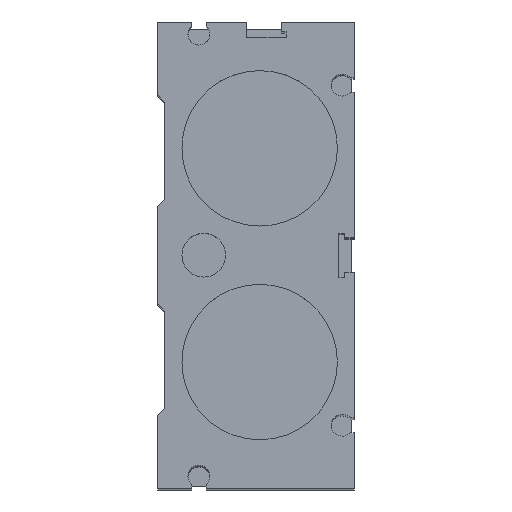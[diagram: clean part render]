
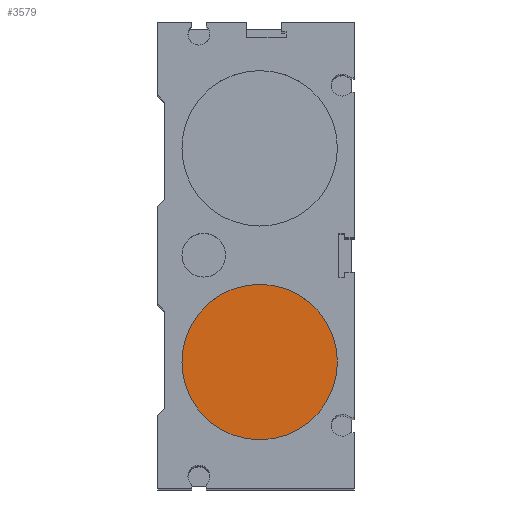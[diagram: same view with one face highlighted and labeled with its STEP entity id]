
A CAD part, top view. The second image highlights one B-rep face of the part: STEP entity #3579.
In plain terms, the highlighted planar face has unit normal (0, 0, 1).
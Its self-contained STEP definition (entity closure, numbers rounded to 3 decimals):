
#3548=CARTESIAN_POINT('',(16.0,-22.0,338.0));
#3549=VERTEX_POINT('',#3548);
#3550=CARTESIAN_POINT('',(0.,-22.0,338.0));
#3551=DIRECTION('',(0.0,0.0,1.0));
#3552=DIRECTION('',(-1.0,0.0,0.0));
#3553=AXIS2_PLACEMENT_3D('',#3550,#3551,#3552);
#3554=CIRCLE('',#3553,16.0);
#3555=EDGE_CURVE('',#3549,#3549,#3554,.T.);
#3571=CARTESIAN_POINT('',(0.,-22.0,338.0));
#3572=DIRECTION('',(0.0,0.0,-1.0));
#3573=DIRECTION('',(-1.0,0.0,0.0));
#3574=AXIS2_PLACEMENT_3D('',#3571,#3572,#3573);
#3575=PLANE('',#3574);
#3576=ORIENTED_EDGE('',*,*,#3555,.T.);
#3577=EDGE_LOOP('',(#3576));
#3578=FACE_OUTER_BOUND('',#3577,.T.);
#3579=ADVANCED_FACE('',(#3578),#3575,.F.);
